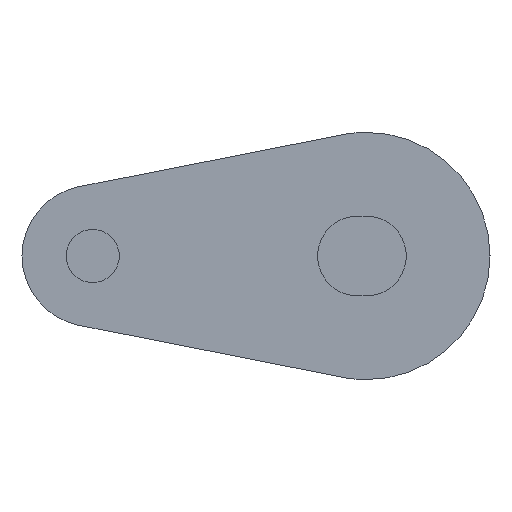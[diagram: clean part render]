
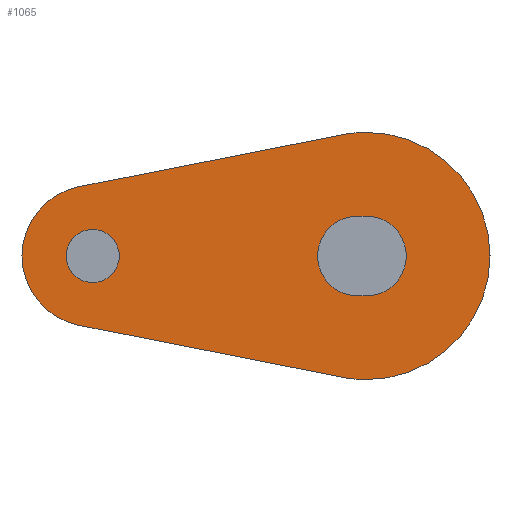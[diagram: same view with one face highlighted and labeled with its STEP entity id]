
A CAD part, left-side view. The second image highlights one B-rep face of the part: STEP entity #1065.
In plain terms, the highlighted planar face has unit normal (-1, 0, 0).
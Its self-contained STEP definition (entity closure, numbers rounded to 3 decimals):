
#61 = FACE_OUTER_BOUND ( 'NONE', #961, .T. ) ;
#64 = FACE_BOUND ( 'NONE', #908, .T. ) ;
#71 = FACE_BOUND ( 'NONE', #934, .T. ) ;
#136 = CIRCLE ( 'NONE', #311, 7. ) ;
#142 = CIRCLE ( 'NONE', #323, 1.51 ) ;
#152 = CIRCLE ( 'NONE', #384, 2.26 ) ;
#161 = CIRCLE ( 'NONE', #272, 4. ) ;
#171 = VECTOR ( 'NONE', #603, 1000. ) ;
#172 = LINE ( 'NONE', #612, #171 ) ;
#174 = CIRCLE ( 'NONE', #325, 7. ) ;
#194 = CIRCLE ( 'NONE', #401, 7. ) ;
#197 = VECTOR ( 'NONE', #646, 1000. ) ;
#198 = LINE ( 'NONE', #645, #197 ) ;
#208 = VECTOR ( 'NONE', #570, 1000. ) ;
#212 = LINE ( 'NONE', #569, #208 ) ;
#225 = VECTOR ( 'NONE', #527, 1000. ) ;
#228 = CIRCLE ( 'NONE', #372, 1.51 ) ;
#242 = LINE ( 'NONE', #528, #225 ) ;
#261 = CIRCLE ( 'NONE', #338, 2.26 ) ;
#272 = AXIS2_PLACEMENT_3D ( 'NONE', #611, #659, #660 ) ;
#298 = EDGE_CURVE ( 'NONE', #473, #474, #261, .T. ) ;
#311 = AXIS2_PLACEMENT_3D ( 'NONE', #674, #666, #667 ) ;
#323 = AXIS2_PLACEMENT_3D ( 'NONE', #599, #586, #587 ) ;
#325 = AXIS2_PLACEMENT_3D ( 'NONE', #633, #617, #608 ) ;
#332 = EDGE_CURVE ( 'NONE', #501, #485, #228, .T. ) ;
#338 = AXIS2_PLACEMENT_3D ( 'NONE', #440, #453, #481 ) ;
#358 = EDGE_CURVE ( 'NONE', #471, #473, #242, .T. ) ;
#361 = EDGE_CURVE ( 'NONE', #469, #467, #212, .T. ) ;
#366 = EDGE_CURVE ( 'NONE', #474, #472, #198, .T. ) ;
#368 = EDGE_CURVE ( 'NONE', #514, #469, #194, .T. ) ;
#372 = AXIS2_PLACEMENT_3D ( 'NONE', #554, #550, #551 ) ;
#384 = AXIS2_PLACEMENT_3D ( 'NONE', #600, #598, #597 ) ;
#386 = EDGE_CURVE ( 'NONE', #490, #515, #174, .T. ) ;
#390 = EDGE_CURVE ( 'NONE', #468, #490, #172, .T. ) ;
#396 = AXIS2_PLACEMENT_3D ( 'NONE', #793, #792, #791 ) ;
#401 = AXIS2_PLACEMENT_3D ( 'NONE', #649, #641, #642 ) ;
#403 = EDGE_CURVE ( 'NONE', #467, #468, #161, .T. ) ;
#411 = EDGE_CURVE ( 'NONE', #472, #471, #152, .T. ) ;
#418 = EDGE_CURVE ( 'NONE', #485, #501, #142, .T. ) ;
#422 = EDGE_CURVE ( 'NONE', #515, #514, #136, .T. ) ;
#440 = CARTESIAN_POINT ( 'NONE',  ( -551.5, 0., 0. ) ) ;
#453 = DIRECTION ( 'NONE',  ( 1., 0., 0. ) ) ;
#467 = VERTEX_POINT ( 'NONE', #726 ) ;
#468 = VERTEX_POINT ( 'NONE', #727 ) ;
#469 = VERTEX_POINT ( 'NONE', #728 ) ;
#471 = VERTEX_POINT ( 'NONE', #720 ) ;
#472 = VERTEX_POINT ( 'NONE', #721 ) ;
#473 = VERTEX_POINT ( 'NONE', #722 ) ;
#474 = VERTEX_POINT ( 'NONE', #723 ) ;
#481 = DIRECTION ( 'NONE',  ( 0., 0., -1. ) ) ;
#485 = VERTEX_POINT ( 'NONE', #715 ) ;
#490 = VERTEX_POINT ( 'NONE', #719 ) ;
#501 = VERTEX_POINT ( 'NONE', #744 ) ;
#514 = VERTEX_POINT ( 'NONE', #683 ) ;
#515 = VERTEX_POINT ( 'NONE', #684 ) ;
#527 = DIRECTION ( 'NONE',  ( 0., -1., 0. ) ) ;
#528 = CARTESIAN_POINT ( 'NONE',  ( -551.5, 0.5, 2.26 ) ) ;
#550 = DIRECTION ( 'NONE',  ( 1., 0., 0. ) ) ;
#551 = DIRECTION ( 'NONE',  ( 0., 0., -1. ) ) ;
#554 = CARTESIAN_POINT ( 'NONE',  ( -551.5, 15.5, 0. ) ) ;
#569 = CARTESIAN_POINT ( 'NONE',  ( -551.5, 1.355, -6.868 ) ) ;
#570 = DIRECTION ( 'NONE',  ( 0., 0.981, 0.194 ) ) ;
#586 = DIRECTION ( 'NONE',  ( 1., 0., 0. ) ) ;
#587 = DIRECTION ( 'NONE',  ( 0., 0., -1. ) ) ;
#597 = DIRECTION ( 'NONE',  ( 0., 0., -1. ) ) ;
#598 = DIRECTION ( 'NONE',  ( 1., 0., 0. ) ) ;
#599 = CARTESIAN_POINT ( 'NONE',  ( -551.5, 15.5, 0. ) ) ;
#600 = CARTESIAN_POINT ( 'NONE',  ( -551.5, 0.5, 0. ) ) ;
#603 = DIRECTION ( 'NONE',  ( 0., -0.981, 0.194 ) ) ;
#608 = DIRECTION ( 'NONE',  ( 0., 0., -1. ) ) ;
#611 = CARTESIAN_POINT ( 'NONE',  ( -551.5, 15.5, 0. ) ) ;
#612 = CARTESIAN_POINT ( 'NONE',  ( -551.5, 16.274, 3.924 ) ) ;
#617 = DIRECTION ( 'NONE',  ( 1., 0., 0. ) ) ;
#633 = CARTESIAN_POINT ( 'NONE',  ( -551.5, 0., 0. ) ) ;
#641 = DIRECTION ( 'NONE',  ( 1., 0., 0. ) ) ;
#642 = DIRECTION ( 'NONE',  ( 0., 0., -1. ) ) ;
#645 = CARTESIAN_POINT ( 'NONE',  ( -551.5, 0.5, -2.26 ) ) ;
#646 = DIRECTION ( 'NONE',  ( 0., 1., 0. ) ) ;
#649 = CARTESIAN_POINT ( 'NONE',  ( -551.5, 0., 0. ) ) ;
#659 = DIRECTION ( 'NONE',  ( 1., 0., 0. ) ) ;
#660 = DIRECTION ( 'NONE',  ( 0., 0., -1. ) ) ;
#666 = DIRECTION ( 'NONE',  ( 1., 0., 0. ) ) ;
#667 = DIRECTION ( 'NONE',  ( 0., 0., -1. ) ) ;
#674 = CARTESIAN_POINT ( 'NONE',  ( -551.5, 0., 0. ) ) ;
#683 = CARTESIAN_POINT ( 'NONE',  ( -551.5, 0., -7. ) ) ;
#684 = CARTESIAN_POINT ( 'NONE',  ( -551.5, 0., 7. ) ) ;
#715 = CARTESIAN_POINT ( 'NONE',  ( -551.5, 15.5, -1.51 ) ) ;
#719 = CARTESIAN_POINT ( 'NONE',  ( -551.5, 1.355, 6.868 ) ) ;
#720 = CARTESIAN_POINT ( 'NONE',  ( -551.5, 0.5, 2.26 ) ) ;
#721 = CARTESIAN_POINT ( 'NONE',  ( -551.5, 0.5, -2.26 ) ) ;
#722 = CARTESIAN_POINT ( 'NONE',  ( -551.5, 0., 2.26 ) ) ;
#723 = CARTESIAN_POINT ( 'NONE',  ( -551.5, 0., -2.26 ) ) ;
#726 = CARTESIAN_POINT ( 'NONE',  ( -551.5, 16.274, -3.924 ) ) ;
#727 = CARTESIAN_POINT ( 'NONE',  ( -551.5, 16.274, 3.924 ) ) ;
#728 = CARTESIAN_POINT ( 'NONE',  ( -551.5, 1.355, -6.868 ) ) ;
#744 = CARTESIAN_POINT ( 'NONE',  ( -551.5, 15.5, 1.51 ) ) ;
#772 = PLANE ( 'NONE',  #396 ) ;
#791 = DIRECTION ( 'NONE',  ( 0., 0., -1. ) ) ;
#792 = DIRECTION ( 'NONE',  ( -1., 0., 0. ) ) ;
#793 = CARTESIAN_POINT ( 'NONE',  ( -551.5, 15.5, 0. ) ) ;
#908 = EDGE_LOOP ( 'NONE', ( #973, #993 ) ) ;
#934 = EDGE_LOOP ( 'NONE', ( #985, #1005, #1020, #992 ) ) ;
#961 = EDGE_LOOP ( 'NONE', ( #976, #1022, #1003, #1001, #1007, #1030 ) ) ;
#973 = ORIENTED_EDGE ( 'NONE', *, *, #418, .T. ) ;
#976 = ORIENTED_EDGE ( 'NONE', *, *, #403, .F. ) ;
#985 = ORIENTED_EDGE ( 'NONE', *, *, #411, .T. ) ;
#992 = ORIENTED_EDGE ( 'NONE', *, *, #366, .T. ) ;
#993 = ORIENTED_EDGE ( 'NONE', *, *, #332, .T. ) ;
#1001 = ORIENTED_EDGE ( 'NONE', *, *, #422, .F. ) ;
#1003 = ORIENTED_EDGE ( 'NONE', *, *, #368, .F. ) ;
#1005 = ORIENTED_EDGE ( 'NONE', *, *, #358, .T. ) ;
#1007 = ORIENTED_EDGE ( 'NONE', *, *, #386, .F. ) ;
#1020 = ORIENTED_EDGE ( 'NONE', *, *, #298, .T. ) ;
#1022 = ORIENTED_EDGE ( 'NONE', *, *, #361, .F. ) ;
#1030 = ORIENTED_EDGE ( 'NONE', *, *, #390, .F. ) ;
#1065 = ADVANCED_FACE ( 'NONE', ( #71, #64, #61 ), #772, .T. ) ;
